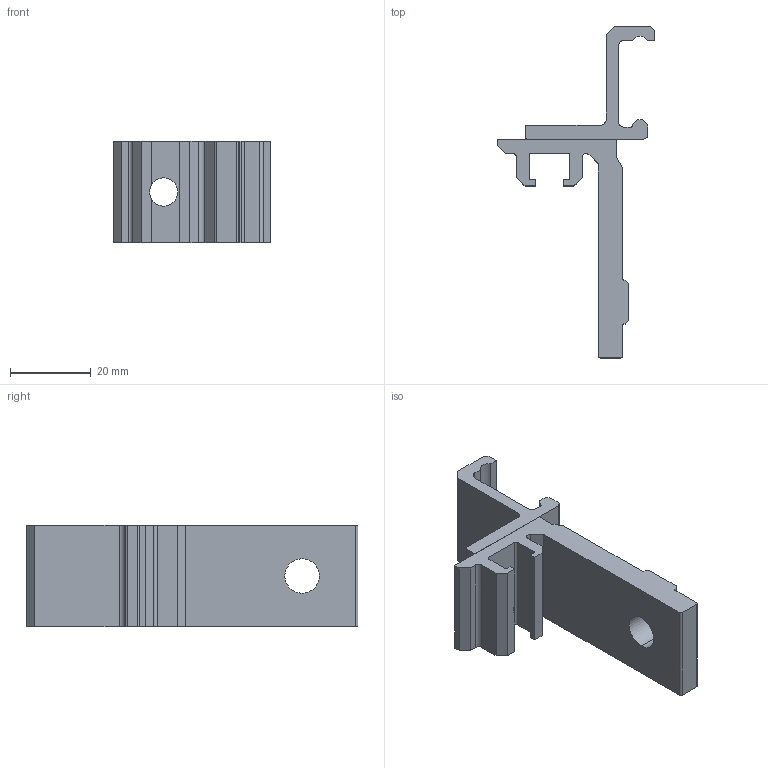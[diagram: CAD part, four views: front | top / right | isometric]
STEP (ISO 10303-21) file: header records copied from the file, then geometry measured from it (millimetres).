
FILE_DESCRIPTION (( 'STEP AP214' ), '1' );
FILE_NAME ('FGRA 8X9X45.STEP', '2026-08-31T07:46:27', ( '' ), ( '' ), 'SwSTEP 2.0', 'SolidWorks 2023', '' );
FILE_SCHEMA (( 'AUTOMOTIVE_DESIGN' ));
Length unit declared in the file: millimetre
Products named in the file (3): Partie sup. FGRA-8x9x45 et 26x9x45; Partie inf fgra-8X9X45; FGRA 8X9X45
Assembly tree (2 placements, depth 2):
  FGRA 8X9X45
    Partie inf fgra-8X9X45
    Partie sup. FGRA-8x9x45 et 26x9x45
Bounding box: 39 x 81.99 x 25 mm (x, y, z)
Volume: 16033.4 mm3; surface area: 9735.8 mm2
Topology: 2 solids, 2 shells, 76 faces, 216 edges, 144 vertices
Faces by surface type: plane 50, cylinder 26
Entity records: 2572 total; most frequent: CARTESIAN_POINT 447, ORIENTED_EDGE 432, DIRECTION 428, EDGE_CURVE 216, VECTOR 162, LINE 162, VERTEX_POINT 144, AXIS2_PLACEMENT_3D 133
